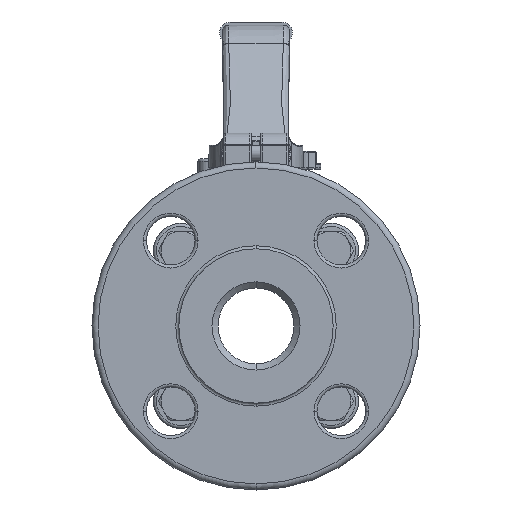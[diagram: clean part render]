
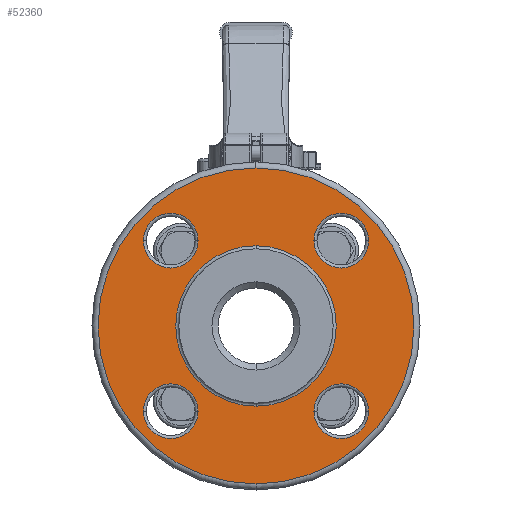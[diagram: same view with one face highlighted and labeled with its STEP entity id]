
A CAD part, left-side view. The second image highlights one B-rep face of the part: STEP entity #52360.
In plain terms, the highlighted planar face has unit normal (-1, 0, 0).
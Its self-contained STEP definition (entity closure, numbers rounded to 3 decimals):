
#55=CARTESIAN_POINT('',(-45.35,0.,0.));
#56=DIRECTION('',(-1.,0.,0.));
#57=DIRECTION('',(0.,0.,1.));
#58=AXIS2_PLACEMENT_3D('',#55,#56,#57);
#75=CARTESIAN_POINT('',(-45.35,0.,0.));
#76=DIRECTION('',(1.,0.,0.));
#77=DIRECTION('',(0.,0.,-1.));
#78=AXIS2_PLACEMENT_3D('',#75,#76,#77);
#98=CARTESIAN_POINT('',(-45.35,0.,0.));
#99=DIRECTION('',(1.,0.,0.));
#100=DIRECTION('',(0.,0.,1.));
#101=AXIS2_PLACEMENT_3D('',#98,#99,#100);
#42904=CARTESIAN_POINT('',(-45.35,28.072,28.072));
#42905=DIRECTION('',(1.,0.,0.));
#42906=DIRECTION('',(0.,1.,0.));
#42907=AXIS2_PLACEMENT_3D('',#42904,#42905,#42906);
#42919=CARTESIAN_POINT('',(-45.35,28.072,28.072));
#42920=DIRECTION('',(1.,0.,0.));
#42921=DIRECTION('',(0.,-1.,0.));
#42922=AXIS2_PLACEMENT_3D('',#42919,#42920,#42921);
#42972=CARTESIAN_POINT('',(-45.35,-28.072,28.072));
#42973=DIRECTION('',(1.,0.,0.));
#42974=DIRECTION('',(0.,-1.,0.));
#42975=AXIS2_PLACEMENT_3D('',#42972,#42973,#42974);
#42987=CARTESIAN_POINT('',(-45.35,-28.072,28.072));
#42988=DIRECTION('',(1.,0.,0.));
#42989=DIRECTION('',(0.,1.,0.));
#42990=AXIS2_PLACEMENT_3D('',#42987,#42988,#42989);
#43040=CARTESIAN_POINT('',(-45.35,-28.072,-28.072));
#43041=DIRECTION('',(1.,0.,0.));
#43042=DIRECTION('',(0.,1.,0.));
#43043=AXIS2_PLACEMENT_3D('',#43040,#43041,#43042);
#43055=CARTESIAN_POINT('',(-45.35,-28.072,-28.072));
#43056=DIRECTION('',(1.,0.,0.));
#43057=DIRECTION('',(0.,-1.,0.));
#43058=AXIS2_PLACEMENT_3D('',#43055,#43056,#43057);
#43108=CARTESIAN_POINT('',(-45.35,28.072,-28.072));
#43109=DIRECTION('',(1.,0.,0.));
#43110=DIRECTION('',(0.,-1.,0.));
#43111=AXIS2_PLACEMENT_3D('',#43108,#43109,#43110);
#43123=CARTESIAN_POINT('',(-45.35,28.072,-28.072));
#43124=DIRECTION('',(1.,0.,0.));
#43125=DIRECTION('',(0.,1.,0.));
#43126=AXIS2_PLACEMENT_3D('',#43123,#43124,#43125);
#43142=CARTESIAN_POINT('',(-45.35,0.,0.));
#43143=DIRECTION('',(-1.,0.,0.));
#43144=DIRECTION('',(0.,0.,-1.));
#43145=AXIS2_PLACEMENT_3D('',#43142,#43143,#43144);
#43173=CARTESIAN_POINT('',(-45.35,0.,-52.));
#43174=CARTESIAN_POINT('',(-45.35,0.,52.));
#43175=VERTEX_POINT('',#43173);
#43176=VERTEX_POINT('',#43174);
#44097=CARTESIAN_POINT('',(-45.35,37.072,28.072));
#44098=CARTESIAN_POINT('',(-45.35,19.072,28.072));
#44099=VERTEX_POINT('',#44097);
#44100=VERTEX_POINT('',#44098);
#44113=CARTESIAN_POINT('',(-45.35,-37.072,28.072));
#44114=CARTESIAN_POINT('',(-45.35,-19.072,28.072));
#44115=VERTEX_POINT('',#44113);
#44116=VERTEX_POINT('',#44114);
#44129=CARTESIAN_POINT('',(-45.35,-19.072,-28.072));
#44130=CARTESIAN_POINT('',(-45.35,-37.072,-28.072));
#44131=VERTEX_POINT('',#44129);
#44132=VERTEX_POINT('',#44130);
#44145=CARTESIAN_POINT('',(-45.35,37.072,-28.072));
#44146=CARTESIAN_POINT('',(-45.35,19.072,-28.072));
#44147=VERTEX_POINT('',#44145);
#44148=VERTEX_POINT('',#44146);
#44765=CARTESIAN_POINT('',(-45.35,0.,26.4));
#44766=CARTESIAN_POINT('',(-45.35,0.,-26.4));
#44767=VERTEX_POINT('',#44765);
#44768=VERTEX_POINT('',#44766);
#52320=CARTESIAN_POINT('',(-45.35,0.,0.));
#52321=DIRECTION('',(-1.,0.,0.));
#52322=DIRECTION('',(0.,0.,1.));
#52323=AXIS2_PLACEMENT_3D('',#52320,#52321,#52322);
#52324=PLANE('',#52323);
#52326=ORIENTED_EDGE('',*,*,#52325,.T.);
#52328=ORIENTED_EDGE('',*,*,#52327,.T.);
#52329=EDGE_LOOP('',(#52326,#52328));
#52330=FACE_OUTER_BOUND('',#52329,.F.);
#52331=ORIENTED_EDGE('',*,*,#52310,.T.);
#52333=ORIENTED_EDGE('',*,*,#52332,.T.);
#52334=EDGE_LOOP('',(#52331,#52333));
#52335=FACE_BOUND('',#52334,.F.);
#52337=ORIENTED_EDGE('',*,*,#52336,.F.);
#52339=ORIENTED_EDGE('',*,*,#52338,.F.);
#52340=EDGE_LOOP('',(#52337,#52339));
#52341=FACE_BOUND('',#52340,.F.);
#52343=ORIENTED_EDGE('',*,*,#52342,.F.);
#52345=ORIENTED_EDGE('',*,*,#52344,.F.);
#52346=EDGE_LOOP('',(#52343,#52345));
#52347=FACE_BOUND('',#52346,.F.);
#52349=ORIENTED_EDGE('',*,*,#52348,.F.);
#52351=ORIENTED_EDGE('',*,*,#52350,.F.);
#52352=EDGE_LOOP('',(#52349,#52351));
#52353=FACE_BOUND('',#52352,.F.);
#52355=ORIENTED_EDGE('',*,*,#52354,.F.);
#52357=ORIENTED_EDGE('',*,*,#52356,.F.);
#52358=EDGE_LOOP('',(#52355,#52357));
#52359=FACE_BOUND('',#52358,.F.);
#52360=ADVANCED_FACE('',(#52330,#52335,#52341,#52347,#52353,#52359),#52324,.T.);
#59=CIRCLE('',#58,26.4);
#79=CIRCLE('',#78,52.);
#102=CIRCLE('',#101,52.);
#42908=CIRCLE('',#42907,9.);
#42923=CIRCLE('',#42922,9.);
#42976=CIRCLE('',#42975,9.);
#42991=CIRCLE('',#42990,9.);
#43044=CIRCLE('',#43043,9.);
#43059=CIRCLE('',#43058,9.);
#43112=CIRCLE('',#43111,9.);
#43127=CIRCLE('',#43126,9.);
#43146=CIRCLE('',#43145,26.4);
#52310=EDGE_CURVE('',#44767,#44768,#59,.T.);
#52325=EDGE_CURVE('',#43175,#43176,#79,.T.);
#52327=EDGE_CURVE('',#43176,#43175,#102,.T.);
#52332=EDGE_CURVE('',#44768,#44767,#43146,.T.);
#52336=EDGE_CURVE('',#44099,#44100,#42908,.T.);
#52338=EDGE_CURVE('',#44100,#44099,#42923,.T.);
#52342=EDGE_CURVE('',#44115,#44116,#42976,.T.);
#52344=EDGE_CURVE('',#44116,#44115,#42991,.T.);
#52348=EDGE_CURVE('',#44131,#44132,#43044,.T.);
#52350=EDGE_CURVE('',#44132,#44131,#43059,.T.);
#52354=EDGE_CURVE('',#44147,#44148,#43127,.T.);
#52356=EDGE_CURVE('',#44148,#44147,#43112,.T.);
